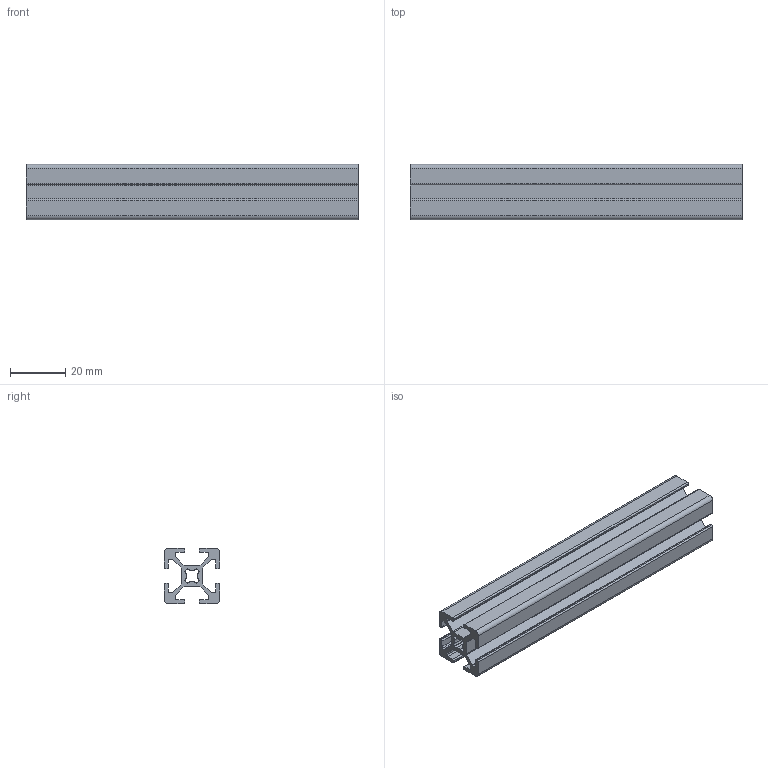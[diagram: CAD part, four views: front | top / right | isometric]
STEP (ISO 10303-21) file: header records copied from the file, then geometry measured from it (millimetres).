
FILE_DESCRIPTION(/* description */ ('STEP AP242 Edition 2','CAx-IF Rec.Pracs.---Representation and Presentation of Product Manufacturing Information (PMI)---4.0---2014-10-13','CAx-IF Rec.Pracs.---3D Tessellated Geometry---0.4---2014-09-14','2;1','CAx-IF Rec.Pracs.---User Defined Attributes---1.5---2016-08-15'),/* implementation_level */ '2;1');
FILE_NAME(/* name */ 'Assembly 1 - Part 11 (2)',/* time_stamp */ '2026-10-08T06:00:13Z',/* author */ (''),/* organization */ (''),/* preprocessor_version */ 'ST-DEVELOPER v20',/* originating_system */ 'ONSHAPE BY PTC INC, 1.221',/* authorisation */ ' ');
FILE_SCHEMA (('AP242_MANAGED_MODEL_BASED_3D_ENGINEERING_MIM_LF { 1 0 10303 442 3 1 4 }'));
Length unit declared in the file: metre
Products named in the file (1): Part 11
Bounding box: 120 x 20 x 20 mm (x, y, z)
Volume: 19499.4 mm3; surface area: 22039.8 mm2
Topology: 1 solids, 1 shells, 106 faces, 318 edges, 214 vertices
Faces by surface type: bspline 106
Entity records: 3822 total; most frequent: CARTESIAN_POINT 1181, ORIENTED_EDGE 636, DIRECTION 438, EDGE_CURVE 318, VERTEX_POINT 214, LINE 200, VECTOR 200, AXIS2_PLACEMENT_3D 119
